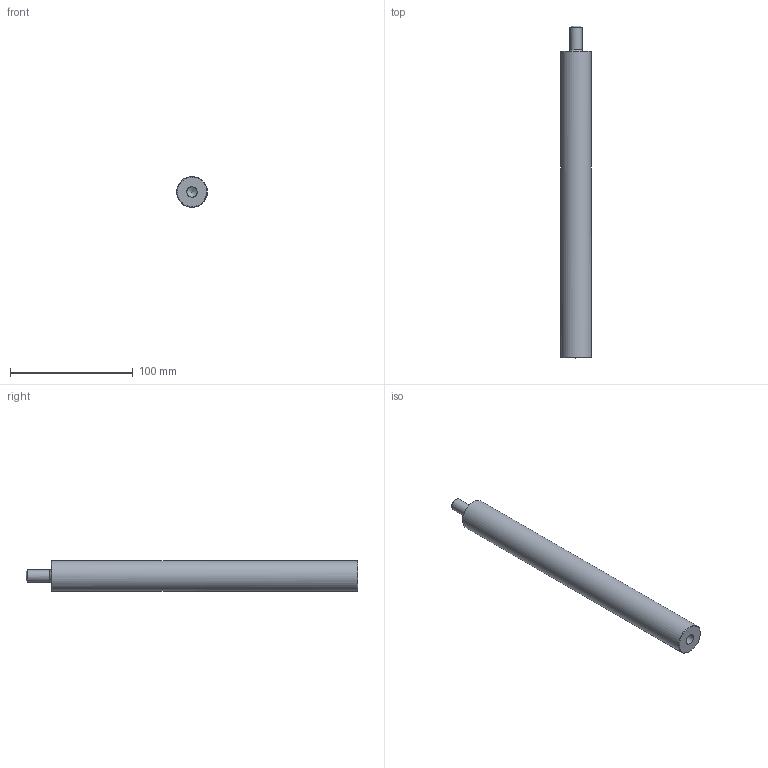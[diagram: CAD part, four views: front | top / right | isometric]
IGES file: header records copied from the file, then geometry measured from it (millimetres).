
Global section: file name: BM12-25D-250L; native system: unknown; preprocessor: unknown; author: unknown; organization: unknown; date: 20231024.140734; units: millimetre
Bounding box: 25 x 270.5 x 24.98 mm (x, y, z)
Volume: 123533.4 mm3; surface area: 21618.1 mm2
Topology: 1 solids, 1 shells, 11 faces, 23 edges, 15 vertices
Faces by surface type: bspline 11
